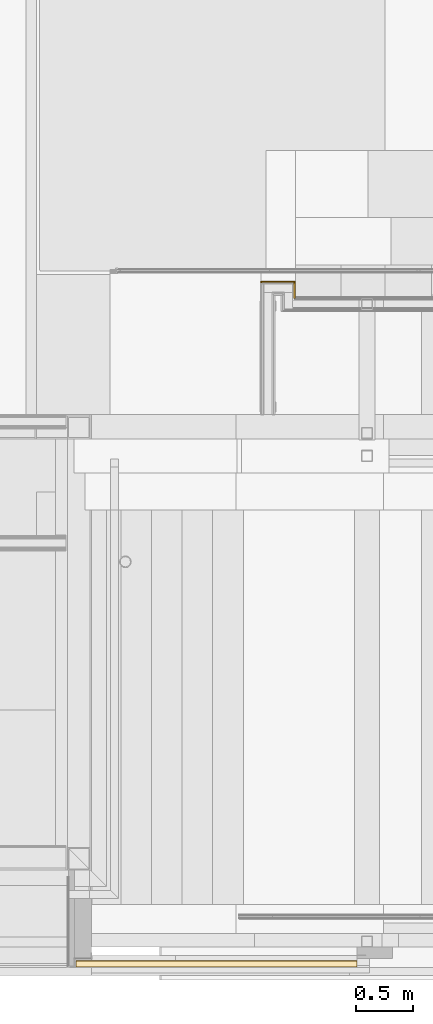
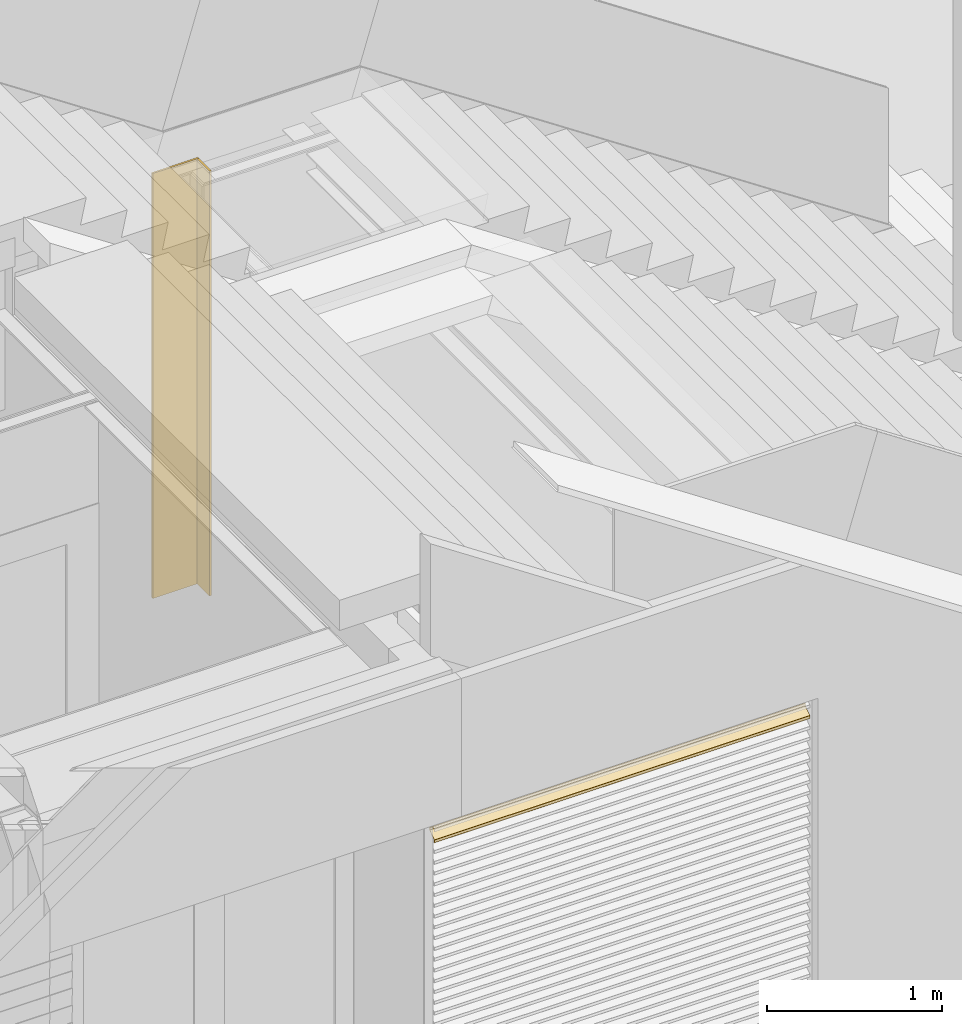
# One storey, part 113 of 165: 3 coverings, 3 elements without a shape of their own.
"""IFC2X3 building model written with IfcOpenShell, lengths in millimetres."""

from ifc_helpers import new_model, entity, si_unit, converted_unit, derived_unit, money_unit, direction, frame, origin_with_axes, place, context, subcontext, project, spatial, faceted_brep, material, type_object, element, aggregate, save


model = new_model("IFC2X3")

# Units and contexts
model_context = context("Model", 3, precision=0.01, world=origin_with_axes(), true_north=direction((0.0, 1.0)))
body_context = subcontext(model_context, "Body", "Model", "MODEL_VIEW")
ifc_project = project(units=[si_unit("LENGTHUNIT", "METRE", prefix="MILLI"), si_unit("AREAUNIT", "SQUARE_METRE"), si_unit("VOLUMEUNIT", "CUBIC_METRE"), converted_unit("PLANEANGLEUNIT", "DEGREE", entity("IfcPlaneAngleMeasure", 0.0174532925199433), si_unit("PLANEANGLEUNIT", "RADIAN"), dimensions=[0, 0, 0, 0, 0, 0, 0]), money_unit("EUR"), converted_unit("TIMEUNIT", "Year", entity("IfcTimeMeasure", 31556926.0), si_unit("TIMEUNIT", "SECOND"), dimensions=[0, 0, 1, 0, 0, 0, 0]), si_unit("MASSUNIT", "GRAM", prefix="KILO"), si_unit("THERMODYNAMICTEMPERATUREUNIT", "DEGREE_CELSIUS"), si_unit("LUMINOUSINTENSITYUNIT", "LUMEN"), si_unit("ENERGYUNIT", "JOULE", prefix="MEGA"), derived_unit("THERMALCONDUCTANCEUNIT", [(si_unit("POWERUNIT", "WATT"), 1), (si_unit("LENGTHUNIT", "METRE"), -1), (si_unit("THERMODYNAMICTEMPERATUREUNIT", "KELVIN"), -1)]), derived_unit("SPECIFICHEATCAPACITYUNIT", [(si_unit("ENERGYUNIT", "JOULE"), 1), (si_unit("MASSUNIT", "GRAM", prefix="KILO"), -1), (si_unit("THERMODYNAMICTEMPERATUREUNIT", "KELVIN"), -1)]), derived_unit("MASSDENSITYUNIT", [(si_unit("MASSUNIT", "GRAM", prefix="KILO"), 1), (si_unit("VOLUMEUNIT", "CUBIC_METRE"), -1)])], contexts=[model_context])

# Site, building, storey
site_placement = place(None, origin_with_axes())
site = spatial("IfcSite", under=ifc_project, at=site_placement, Name="Site", CompositionType="ELEMENT")
building_placement = place(site_placement, origin_with_axes())
building = spatial("IfcBuilding", under=site, at=building_placement, Name="Naam gebouw", CompositionType="ELEMENT")
storey_placement = place(building_placement, origin_with_axes())
storey = spatial("IfcBuildingStorey", under=building, at=storey_placement, Name="Begane grond", CompositionType="ELEMENT", Elevation=0.0)

# Proxy, covering
building_element_proxy_type = type_object("IfcBuildingElementProxyType", Name="22 Metal stud 125 oregon pine 125", PredefinedType="NOTDEFINED")
proxy_1_placement = place(storey_placement, frame((13358.57015755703, 5869.999890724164, -100.0), z_axis=(0.0, 0.0, 1.0), x_axis=(0.0, -1.0, 0.0)))
proxy_1 = element("IfcBuildingElementProxy", 1, at=proxy_1_placement, inside=storey, type_object=building_element_proxy_type, Name="_Wand-x")
ifc_material_1 = material(Name="Hout - Multiplex Oregon Pine")
covering_1_placement = place(proxy_1_placement, origin_with_axes())
covering_1 = element("IfcCovering", 2, at=covering_1_placement, material=ifc_material_1, Name="Hout - Multiplex Oregon Pine", PredefinedType="NOTDEFINED", context=body_context, shape_type="Brep", body=[
    faceted_brep([(12.50000414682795, -12.50000000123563, 2960.0), (12.50000000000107, -1.236344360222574e-09, 2960.0), (12.50000000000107, -1.236344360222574e-09, 0.0), (12.50000414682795, -12.50000000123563, 0.0), (152.4998865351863, -1.509015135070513e-08, 2960.0), (152.49988653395, -12.50000001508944, 2960.0), (152.4998865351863, -1.509015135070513e-08, 0.0), (152.49988653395, -12.50000001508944, 0.0)], [[[0, 1, 2, 3]], [[4, 1, 0, 5]], [[1, 4, 6, 2]], [[6, 7, 3, 2]], [[5, 0, 3, 7]], [[4, 5, 7, 6]]]),
])
aggregate(proxy_1, [covering_1])

proxy_2_placement = place(storey_placement, frame((13053.57016167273, 5869.999789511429, -100.0), z_axis=(0.0, 0.0, 1.0), x_axis=(0.999999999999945, 3.31845037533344e-07, 0.0)))
proxy_2 = element("IfcBuildingElementProxy", 3, at=proxy_2_placement, inside=storey, type_object=building_element_proxy_type, Name="_Wand-x")
covering_2_placement = place(proxy_2_placement, origin_with_axes())
covering_2 = element("IfcCovering", 4, at=covering_2_placement, material=ifc_material_1, Name="Hout - Multiplex Oregon Pine", PredefinedType="NOTDEFINED", context=body_context, shape_type="Brep", body=[
    faceted_brep([(0.0, 0.0, 2960.0), (304.999995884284, -0.0001012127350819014, 2960.0), (304.999995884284, -0.0001012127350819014, 0.0), (0.0, 0.0, 0.0), (304.9999917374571, -12.50010121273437, 2960.0), (-4.148063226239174e-06, -12.49999999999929, 2960.0), (304.9999917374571, -12.50010121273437, 0.0), (-4.148063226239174e-06, -12.49999999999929, 0.0)], [[[0, 1, 2, 3]], [[4, 1, 0, 5]], [[1, 4, 6, 2]], [[2, 6, 7, 3]], [[5, 0, 3, 7]], [[4, 5, 7, 6]]]),
])
aggregate(proxy_2, [covering_2])

# Beam, covering
beam_type = type_object("IfcBeamType", Name="30 Duco Louvre deur 55 x 2627", PredefinedType="BEAM")
beam_placement = place(storey_placement, frame((13900.0, -116.9904125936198, 0.0), z_axis=(0.0, 0.0, 1.0), x_axis=(0.0, 1.0, 0.0)))
beam = element("IfcBeam", 5, at=beam_placement, inside=storey, type_object=beam_type, Name="_Regenwaterafvoer-x", ObjectType="BEAM")
ifc_material_2 = material(Name="Metaal - Aluminium")
covering_3_placement = place(beam_placement, origin_with_axes())
covering_3 = element("IfcCovering", 6, at=covering_3_placement, material=ifc_material_2, Name="Metaal - Aluminium", PredefinedType="NOTDEFINED", context=body_context, shape_type="Brep", body=[
    faceted_brep([(-4.027927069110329, 2473.999999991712, 2483.699501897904), (-56.57357643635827, 2473.999999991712, 2446.90664211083), (-56.57357643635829, 0.0, 2446.90664211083), (-4.027927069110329, 0.0, 2483.699501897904), (-3.900000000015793, 2473.999999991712, 2483.94524751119), (-3.900000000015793, 2473.999999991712, 2499.126428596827), (-3.975892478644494, 2473.999999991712, 2499.325867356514), (-4.165172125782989, 2473.999999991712, 2499.424400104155), (-4.372072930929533, 2473.999999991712, 2499.372174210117), (-5.427927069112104, 2473.999999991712, 2498.632857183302), (-5.63482787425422, 2473.999999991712, 2498.580631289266), (-5.82410752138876, 2473.999999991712, 2498.679164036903), (-5.900000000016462, 2473.999999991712, 2498.878602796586), (-5.900000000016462, 2473.999999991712, 2500.465609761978), (-5.772072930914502, 2473.999999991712, 2500.711355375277), (-2.944145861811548, 2473.999999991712, 2502.691491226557), (-2.530344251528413, 2473.999999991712, 2502.795943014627), (-2.151784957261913, 2473.999999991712, 2502.598877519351), (-2.000000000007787, 2473.999999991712, 2502.199999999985), (-2.000000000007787, 2473.999999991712, 2483.320567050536), (-2.426423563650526, 2473.999999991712, 2482.501415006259), (-26.08018232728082, 2473.999999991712, 2465.938874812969), (-26.40000000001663, 2473.999999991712, 2465.324510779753), (-26.40000000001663, 2473.999999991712, 2462.127817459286), (-26.6196699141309, 2473.999999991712, 2461.597487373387), (-28.05857864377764, 2473.999999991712, 2460.158578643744), (-28.2000000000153, 2473.999999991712, 2460.099999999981), (-28.34142135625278, 2473.999999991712, 2460.158578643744), (-28.40000000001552, 2473.999999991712, 2460.299999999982), (-28.40000000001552, 2473.999999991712, 2462.873784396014), (-28.58973119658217, 2473.999999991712, 2463.372381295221), (-29.06293031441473, 2473.999999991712, 2463.618713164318), (-29.58018232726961, 2473.999999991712, 2463.488148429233), (-30.60000000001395, 2473.999999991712, 2462.774064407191), (-30.60000000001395, 2473.999999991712, 2457.599999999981), (-30.74644660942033, 2473.999999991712, 2457.246446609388), (-31.10000000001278, 2473.999999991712, 2457.099999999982), (-32.10000000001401, 2473.999999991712, 2457.099999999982), (-32.45355339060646, 2473.999999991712, 2457.246446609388), (-32.60000000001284, 2473.999999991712, 2457.599999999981), (-32.60000000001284, 2473.999999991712, 2459.932912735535), (-32.78973119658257, 2473.999999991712, 2460.431509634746), (-33.26293031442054, 2473.999999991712, 2460.677841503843), (-33.78018232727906, 2473.999999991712, 2460.547276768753), (-54.97207293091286, 2473.999999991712, 2445.708555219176), (-55.10000000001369, 2473.999999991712, 2445.462809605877), (-55.10000000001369, 2473.999999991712, 2429.973571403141), (-55.02410752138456, 2473.999999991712, 2429.774132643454), (-54.83482787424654, 2473.999999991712, 2429.675599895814), (-54.62792706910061, 2473.999999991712, 2429.727825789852), (-53.57207293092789, 2473.999999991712, 2430.46714281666), (-53.36517212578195, 2473.999999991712, 2430.519368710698), (-53.1758924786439, 2473.999999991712, 2430.420835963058), (-53.1000000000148, 2473.999999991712, 2430.221397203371), (-53.1000000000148, 2473.999999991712, 2428.634390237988), (-53.22792706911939, 2473.999999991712, 2428.388644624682), (-56.05585413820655, 2473.999999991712, 2426.408508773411), (-56.46965574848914, 2473.999999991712, 2426.304056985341), (-56.84821504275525, 2473.999999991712, 2426.501122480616), (-57.00000000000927, 2473.999999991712, 2426.899999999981), (-57.00000000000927, 2473.999999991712, 2446.087490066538), (-57.00000000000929, 0.0, 2446.087490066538), (-57.00000000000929, 0.0, 2426.899999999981), (-56.84821504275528, 0.0, 2426.501122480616), (-56.46965574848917, 0.0, 2426.304056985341), (-56.05585413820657, 0.0, 2426.408508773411), (-53.22792706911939, 0.0, 2428.388644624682), (-53.10000000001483, 0.0, 2428.634390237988), (-53.10000000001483, 0.0, 2430.221397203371), (-53.17589247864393, 0.0, 2430.420835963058), (-53.36517212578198, 0.0, 2430.519368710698), (-53.57207293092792, 0.0, 2430.46714281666), (-54.62792706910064, 0.0, 2429.727825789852), (-54.83482787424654, 0.0, 2429.675599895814), (-55.02410752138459, 0.0, 2429.774132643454), (-55.10000000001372, 0.0, 2429.973571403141), (-55.10000000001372, 0.0, 2445.462809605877), (-54.97207293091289, 0.0, 2445.708555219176), (-33.78018232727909, 0.0, 2460.547276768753), (-33.26293031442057, 0.0, 2460.677841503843), (-32.78973119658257, 0.0, 2460.431509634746), (-32.60000000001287, 0.0, 2459.932912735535), (-32.60000000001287, 0.0, 2457.599999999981), (-32.45355339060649, 0.0, 2457.246446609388), (-32.10000000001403, 0.0, 2457.099999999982), (-31.10000000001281, 0.0, 2457.099999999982), (-30.74644660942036, 0.0, 2457.246446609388), (-30.60000000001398, 0.0, 2457.599999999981), (-30.60000000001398, 0.0, 2462.774064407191), (-29.58018232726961, 0.0, 2463.488148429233), (-29.06293031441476, 0.0, 2463.618713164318), (-28.5897311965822, 0.0, 2463.372381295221), (-28.40000000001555, 0.0, 2462.873784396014), (-28.40000000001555, 0.0, 2460.299999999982), (-28.34142135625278, 0.0, 2460.158578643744), (-28.2000000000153, 0.0, 2460.099999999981), (-28.05857864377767, 0.0, 2460.158578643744), (-26.61966991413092, 0.0, 2461.597487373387), (-26.40000000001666, 0.0, 2462.127817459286), (-26.40000000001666, 0.0, 2465.324510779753), (-26.08018232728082, 0.0, 2465.938874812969), (-2.42642356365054, 0.0, 2482.501415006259), (-2.000000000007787, 0.0, 2483.320567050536), (-2.000000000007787, 0.0, 2502.199999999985), (-2.151784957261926, 0.0, 2502.598877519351), (-2.530344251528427, 0.0, 2502.795943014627), (-2.944145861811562, 0.0, 2502.691491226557), (-5.772072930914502, 0.0, 2500.711355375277), (-5.900000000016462, 0.0, 2500.465609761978), (-5.900000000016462, 0.0, 2498.878602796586), (-5.82410752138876, 0.0, 2498.679164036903), (-5.63482787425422, 0.0, 2498.580631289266), (-5.427927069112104, 0.0, 2498.632857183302), (-4.372072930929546, 0.0, 2499.372174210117), (-4.165172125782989, 0.0, 2499.424400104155), (-3.975892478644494, 0.0, 2499.325867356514), (-3.900000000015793, 0.0, 2499.126428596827), (-3.900000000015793, 0.0, 2483.94524751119)], [[[0, 1, 2, 3]], [[0, 4, 5, 6, 7, 8, 9, 10, 11, 12, 13, 14, 15, 16, 17, 18, 19, 20, 21, 22, 23, 24, 25, 26, 27, 28, 29, 30, 31, 32, 33, 34, 35, 36, 37, 38, 39, 40, 41, 42, 43, 44, 45, 46, 47, 48, 49, 50, 51, 52, 53, 54, 55, 56, 57, 58, 59, 60, 1]], [[1, 60, 61, 2]], [[3, 2, 61, 62, 63, 64, 65, 66, 67, 68, 69, 70, 71, 72, 73, 74, 75, 76, 77, 78, 79, 80, 81, 82, 83, 84, 85, 86, 87, 88, 89, 90, 91, 92, 93, 94, 95, 96, 97, 98, 99, 100, 101, 102, 103, 104, 105, 106, 107, 108, 109, 110, 111, 112, 113, 114, 115, 116, 117]], [[4, 0, 3, 117]], [[5, 4, 117, 116]], [[6, 5, 116, 115]], [[7, 6, 115, 114]], [[8, 7, 114, 113]], [[9, 8, 113, 112]], [[10, 9, 112, 111]], [[11, 10, 111, 110]], [[12, 11, 110, 109]], [[13, 12, 109, 108]], [[14, 13, 108, 107]], [[15, 14, 107, 106]], [[16, 15, 106, 105]], [[17, 16, 105, 104]], [[18, 17, 104, 103]], [[19, 18, 103, 102]], [[20, 19, 102, 101]], [[21, 20, 101, 100]], [[22, 21, 100, 99]], [[23, 22, 99, 98]], [[24, 23, 98, 97]], [[25, 24, 97, 96]], [[26, 25, 96, 95]], [[27, 26, 95, 94]], [[28, 27, 94, 93]], [[29, 28, 93, 92]], [[30, 29, 92, 91]], [[31, 30, 91, 90]], [[32, 31, 90, 89]], [[33, 32, 89, 88]], [[34, 33, 88, 87]], [[35, 34, 87, 86]], [[36, 35, 86, 85]], [[37, 36, 85, 84]], [[38, 37, 84, 83]], [[39, 38, 83, 82]], [[40, 39, 82, 81]], [[41, 40, 81, 80]], [[42, 41, 80, 79]], [[43, 42, 79, 78]], [[44, 43, 78, 77]], [[45, 44, 77, 76]], [[46, 45, 76, 75]], [[47, 46, 75, 74]], [[48, 47, 74, 73]], [[49, 48, 73, 72]], [[50, 49, 72, 71]], [[51, 50, 71, 70]], [[52, 51, 70, 69]], [[53, 52, 69, 68]], [[54, 53, 68, 67]], [[55, 54, 67, 66]], [[56, 55, 66, 65]], [[57, 56, 65, 64]], [[58, 57, 64, 63]], [[59, 58, 63, 62]], [[60, 59, 62, 61]]]),
])
aggregate(beam, [covering_3])

save(model, "model.ifc")
